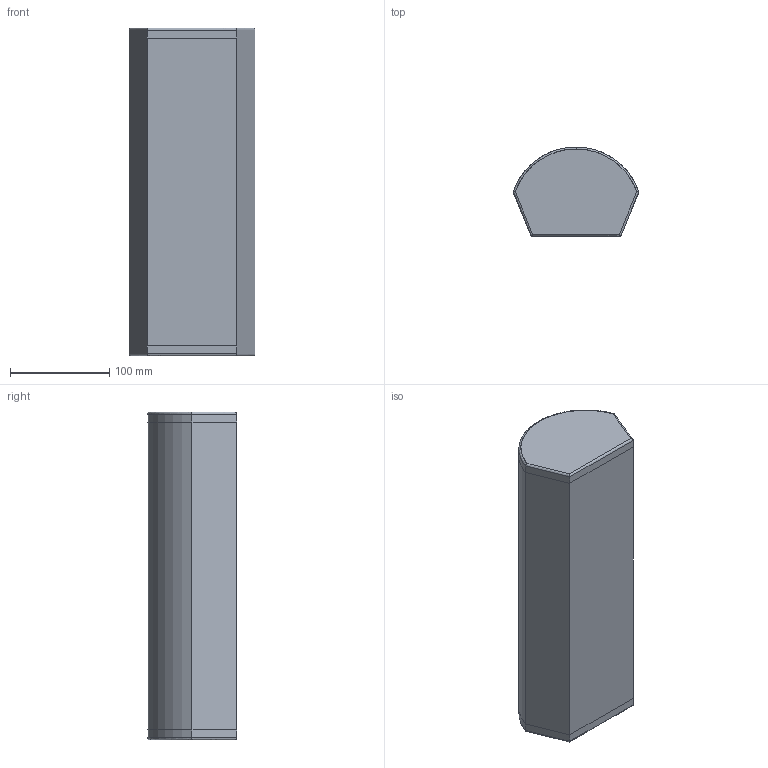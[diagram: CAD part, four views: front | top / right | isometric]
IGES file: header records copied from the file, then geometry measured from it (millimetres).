
Start section: SolidWorks IGES file using analytic representation for surfaces
Global section: file name: C:\Users\danielet\Desktop\3D ANDONI\ALDO-A343210-3D\ALDO-A343210-3D.IGS; native system: SolidWorks 2018; preprocessor: SolidWorks 2018; author: danielet; date: 210218.125412; units: millimetre
Bounding box: 126.52 x 90 x 330 mm (x, y, z)
Surface area: 169961.1 mm2 (no closed solid volume)
Topology: 0 solids, 0 shells, 26 faces, 374 edges, 374 vertices
Faces by surface type: bspline 17, revolution 9
